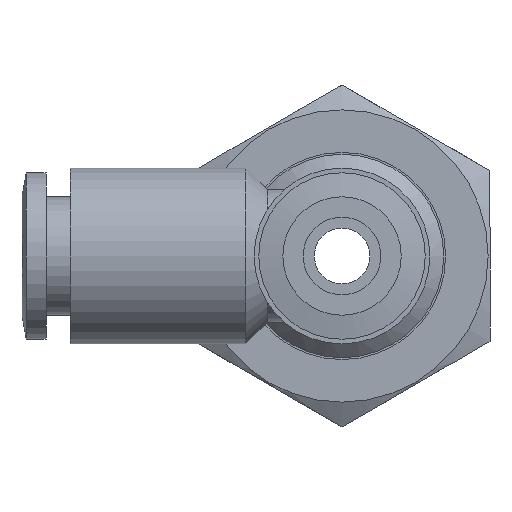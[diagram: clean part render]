
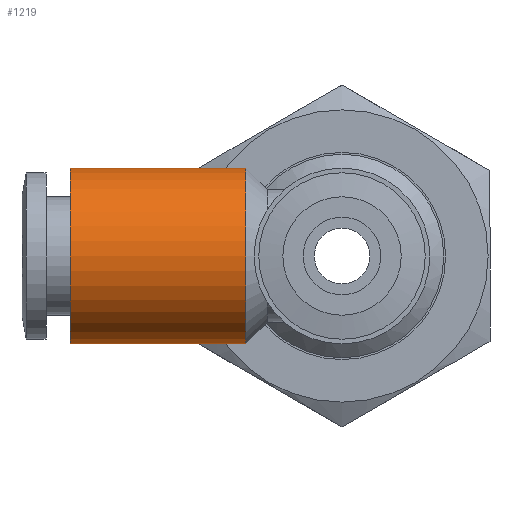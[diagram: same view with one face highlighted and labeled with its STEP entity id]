
A CAD part, left-side view. The second image highlights one B-rep face of the part: STEP entity #1219.
In plain terms, the highlighted cylindrical face has radius 4.75 mm (diameter 9.5 mm), a full revolution.
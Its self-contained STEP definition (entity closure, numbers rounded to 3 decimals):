
#1185=CARTESIAN_POINT('',(-4.75,5.2,0.0));
#1186=VERTEX_POINT('',#1185);
#1187=CARTESIAN_POINT('',(0.0,5.2,0.0));
#1188=DIRECTION('',(0.0,1.0,0.0));
#1189=DIRECTION('',(-1.0,0.0,0.0));
#1190=AXIS2_PLACEMENT_3D('',#1187,#1188,#1189);
#1191=CIRCLE('',#1190,4.75);
#1192=EDGE_CURVE('',#1186,#1186,#1191,.T.);
#1200=CARTESIAN_POINT('',(0.0,9.95,0.0));
#1201=DIRECTION('',(0.0,1.0,0.0));
#1202=DIRECTION('',(-1.0,0.0,0.0));
#1203=AXIS2_PLACEMENT_3D('',#1200,#1201,#1202);
#1204=CYLINDRICAL_SURFACE('',#1203,4.75);
#1205=CARTESIAN_POINT('',(-4.75,14.7,0.0));
#1206=VERTEX_POINT('',#1205);
#1207=CARTESIAN_POINT('',(0.0,14.7,0.0));
#1208=DIRECTION('',(0.0,1.0,0.0));
#1209=DIRECTION('',(-1.0,0.0,0.0));
#1210=AXIS2_PLACEMENT_3D('',#1207,#1208,#1209);
#1211=CIRCLE('',#1210,4.75);
#1212=EDGE_CURVE('',#1206,#1206,#1211,.T.);
#1213=ORIENTED_EDGE('',*,*,#1212,.F.);
#1214=EDGE_LOOP('',(#1213));
#1215=FACE_OUTER_BOUND('',#1214,.T.);
#1216=ORIENTED_EDGE('',*,*,#1192,.T.);
#1217=EDGE_LOOP('',(#1216));
#1218=FACE_BOUND('',#1217,.T.);
#1219=ADVANCED_FACE('',(#1215,#1218),#1204,.T.);
